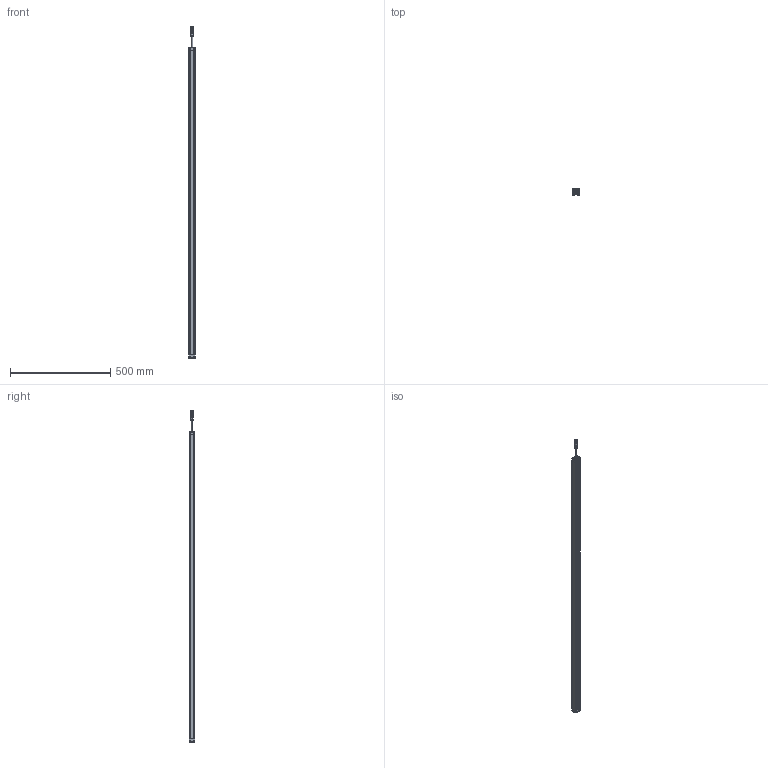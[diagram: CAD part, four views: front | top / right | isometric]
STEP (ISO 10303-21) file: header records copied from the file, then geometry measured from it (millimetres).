
FILE_DESCRIPTION((''),'2;1');
FILE_NAME('SMT1-CGQ_ASM','2025-08-08T08:48:46',('Administrator'),(''),'CREO PARAMETRIC BY PTC INC, 2016510','CREO PARAMETRIC BY PTC INC, 2016510','');
FILE_SCHEMA(('CONFIG_CONTROL_DESIGN'));
Length unit declared in the file: millimetre
Products named in the file (7): SMT1-XINGCAI-V1; SMT1-SDG-V1; SMT1-XDG-V1; M12-CHATOU; ST3X18; CT4-LVGUANGBAN; SMT1-CGQ_ASM
Assembly tree (13 placements, depth 2):
  SMT1-CGQ_ASM
    SMT1-XINGCAI-V1
    SMT1-SDG-V1
    SMT1-XDG-V1
    M12-CHATOU
    ST3X18  x8
    CT4-LVGUANGBAN
Bounding box: 33 x 28.02 x 1659.5 mm (x, y, z)
Volume: 1197812.8 mm3; surface area: 383007.1 mm2
Topology: 13 solids, 13 shells, 712 faces, 1868 edges, 1200 vertices
Faces by surface type: plane 382, cylinder 184, extrusion 86, sphere 32, cone 20, bspline 8
Entity records: 18128 total; most frequent: CARTESIAN_POINT 4347, ORIENTED_EDGE 2916, DIRECTION 2580, EDGE_CURVE 1458, VECTOR 1036, VERTEX_POINT 955, LINE 950, AXIS2_PLACEMENT_3D 772
